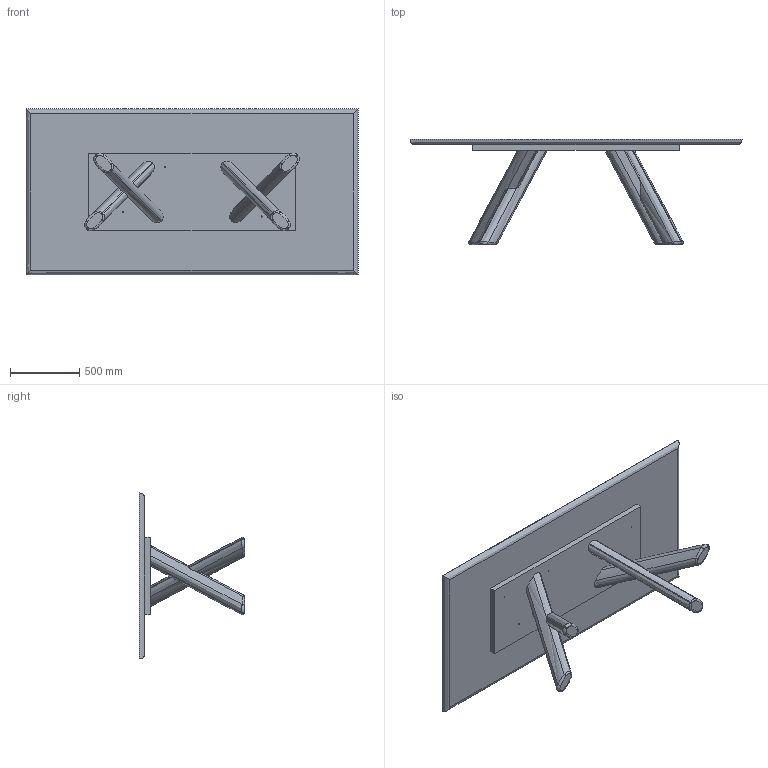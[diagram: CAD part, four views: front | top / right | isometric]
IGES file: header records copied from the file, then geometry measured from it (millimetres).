
Start section: SolidWorks IGES file using analytic representation for surfaces
Global section: file name: Y:\eforma\TECNICO\SOLIDWORKS\E-FORMA\1-TAVOLI\CANOVA\08 modelli 3D web\CN23W_CANOVA_top legno 240x120x76h.IGS; native system: SolidWorks 2022; preprocessor: SolidWorks 2022; author: eforma.tech; date: 250415.090956; units: millimetre
Bounding box: 2400 x 760 x 1200 mm (x, y, z)
Volume: 178934403.2 mm3; surface area: 9214850.3 mm2
Topology: 6 solids, 6 shells, 164 faces, 394 edges, 248 vertices
Faces by surface type: revolution 102, bspline 36, plane 26
